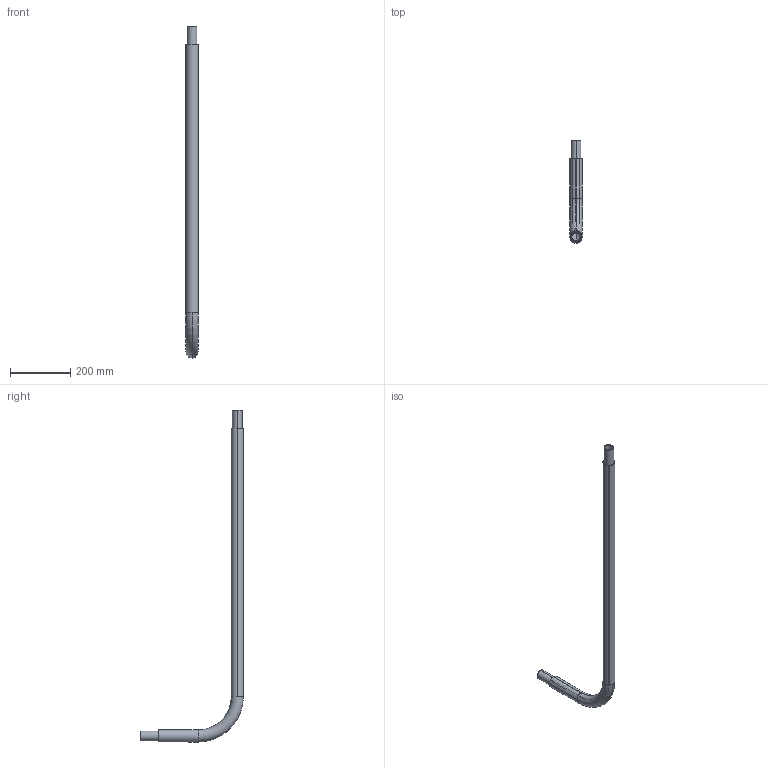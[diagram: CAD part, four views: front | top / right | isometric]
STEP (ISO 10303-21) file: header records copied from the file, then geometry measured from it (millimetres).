
FILE_DESCRIPTION (( 'STEP AP203' ), '1' );
FILE_NAME ('KP_3-40-32SCL.step', '2011-08-08T11:39:52', ( '' ), ( '' ), 'SwSTEP 2.0', 'SolidWorks 2011', '' );
FILE_SCHEMA (( 'CONFIG_CONTROL_DESIGN' ));
Length unit declared in the file: millimetre
Products named in the file (1): KP_3-40-32SCL
Bounding box: 40 x 340 x 1100 mm (x, y, z)
Volume: 629131.3 mm3; surface area: 553431.4 mm2
Topology: 2 solids, 2 shells, 80 faces, 186 edges, 111 vertices
Faces by surface type: cylinder 50, torus 25, plane 5
Entity records: 2397 total; most frequent: DIRECTION 484, CARTESIAN_POINT 378, ORIENTED_EDGE 372, AXIS2_PLACEMENT_3D 217, EDGE_CURVE 186, CIRCLE 136, VERTEX_POINT 111, EDGE_LOOP 85
